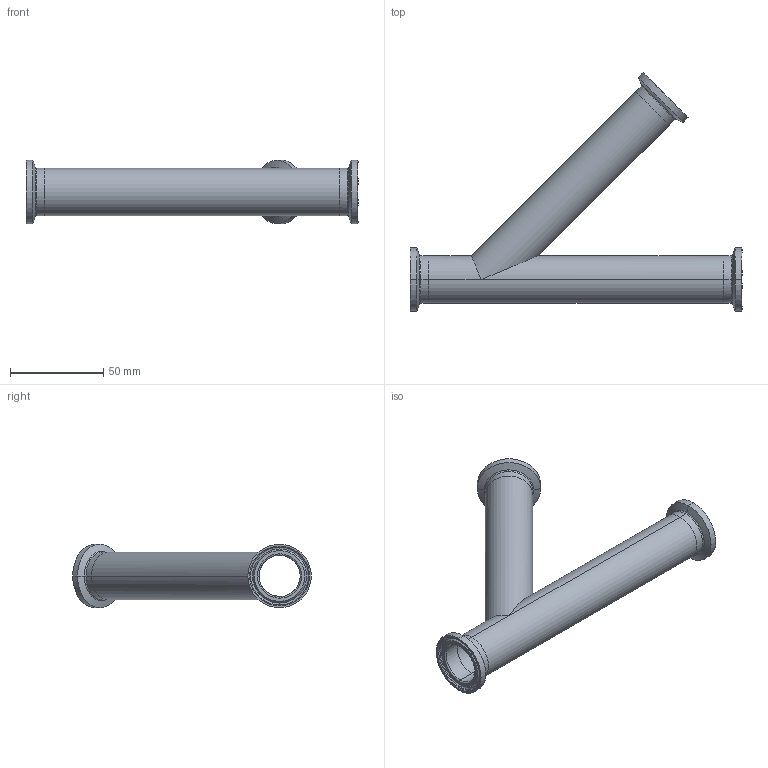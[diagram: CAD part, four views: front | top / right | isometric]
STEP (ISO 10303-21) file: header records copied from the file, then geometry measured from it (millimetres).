
FILE_DESCRIPTION (( 'STEP AP214' ), '1' );
FILE_NAME ('TEG28A6L1.0-..Type A.STEP', '2016-05-25T04:35:08', ( 'eran' ), ( '' ), 'SwSTEP 2.0', 'SolidWorks 2016', '' );
FILE_SCHEMA (( 'AUTOMOTIVE_DESIGN' ));
Length unit declared in the file: millimetre
Products named in the file (1): TEG28A6L1.0-..Type A
Bounding box: 177.8 x 127.81 x 34.01 mm (x, y, z)
Volume: 40292.3 mm3; surface area: 48075.6 mm2
Topology: 4 solids, 4 shells, 82 faces, 194 edges, 122 vertices
Faces by surface type: cylinder 34, bspline 24, plane 12, cone 12
Entity records: 2753 total; most frequent: CARTESIAN_POINT 819, DIRECTION 418, ORIENTED_EDGE 388, EDGE_CURVE 194, AXIS2_PLACEMENT_3D 185, CIRCLE 126, VERTEX_POINT 122, EDGE_LOOP 94
